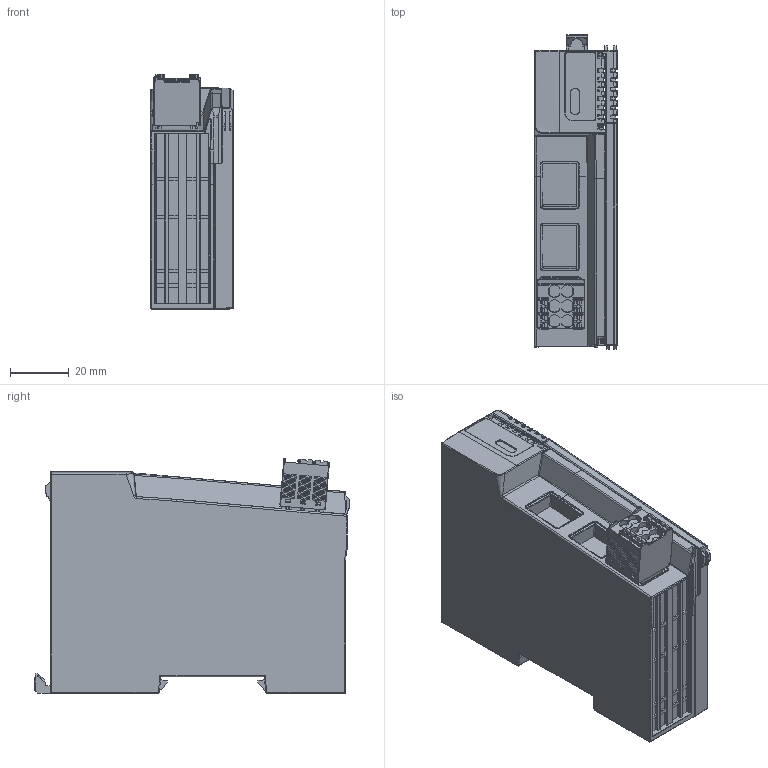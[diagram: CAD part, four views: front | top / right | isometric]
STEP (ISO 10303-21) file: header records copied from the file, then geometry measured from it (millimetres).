
FILE_DESCRIPTION((''),'2;1');
FILE_NAME('01440286-WXSTEP-B00_ASM','2022-04-22T',('l4054'),(''),'CREO PARAMETRIC BY PTC INC, 2015290','CREO PARAMETRIC BY PTC INC, 2015290','');
FILE_SCHEMA(('AUTOMOTIVE_DESIGN { 1 0 10303 214 1 1 1 1 }'));
Products named in the file (3): GL20-RTU-ECT; 20212484; 01440286-WXSTEP-B00_ASM
Assembly tree (2 placements, depth 2):
  01440286-WXSTEP-B00_ASM
    GL20-RTU-ECT
    20212484
Bounding box: 28.05 x 106.94 x 79.69 mm (x, y, z)
Volume: 166760.9 mm3; surface area: 50326.7 mm2
Topology: 2 solids, 2 shells, 3745 faces, 9597 edges, 5872 vertices
Faces by surface type: plane 2058, cylinder 1081, bspline 374, torus 160, sphere 45, cone 14, extrusion 13
Entity records: 211054 total; most frequent: CARTESIAN_POINT 80730, ORIENTED_EDGE 19104, DIRECTION 16374, PRESENTATION_STYLE_ASSIGNMENT 11101, STYLED_ITEM 9567, CURVE_STYLE 9565, EDGE_CURVE 9552, VECTOR 6440
